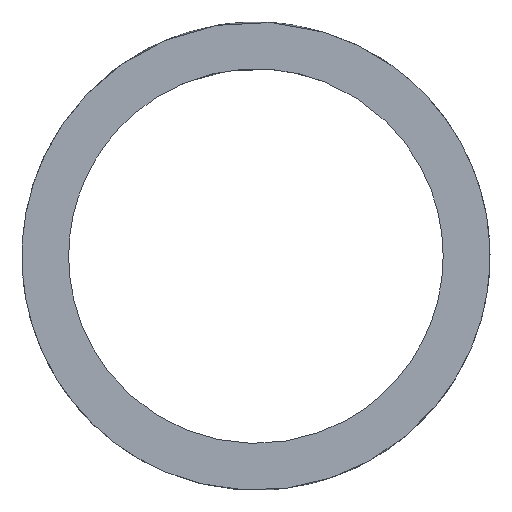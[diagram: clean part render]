
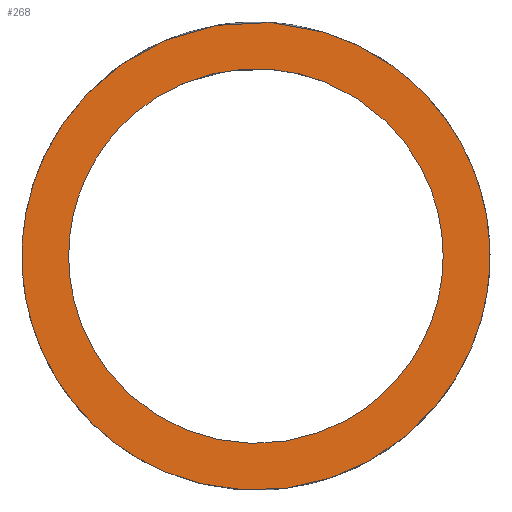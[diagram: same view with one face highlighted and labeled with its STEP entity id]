
A CAD part, left-side view. The second image highlights one B-rep face of the part: STEP entity #268.
In plain terms, the highlighted planar face has unit normal (-0.707, -0.707, 0).
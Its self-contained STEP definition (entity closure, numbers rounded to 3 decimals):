
#110=ORIENTED_EDGE('',*,*,#138,.T.);
#111=ORIENTED_EDGE('',*,*,#139,.T.);
#126=ELLIPSE('',#257,21.213,15.);
#127=ELLIPSE('',#258,16.971,12.);
#130=VERTEX_POINT('',#199);
#131=VERTEX_POINT('',#201);
#138=EDGE_CURVE('',#130,#130,#126,.T.);
#139=EDGE_CURVE('',#131,#131,#127,.T.);
#146=EDGE_LOOP('',(#110));
#147=EDGE_LOOP('',(#111));
#162=FACE_BOUND('',#146,.T.);
#163=FACE_BOUND('',#147,.T.);
#178=DIRECTION('',(-0.707,-0.707,0.));
#179=DIRECTION('',(-0.707,0.707,0.));
#180=DIRECTION('',(-0.707,-0.707,0.));
#181=DIRECTION('',(0.707,-0.707,0.));
#182=DIRECTION('',(0.707,0.707,0.));
#183=DIRECTION('',(-0.707,0.707,0.));
#198=CARTESIAN_POINT('',(-98.106,-4.393,15.));
#199=CARTESIAN_POINT('',(-98.106,-4.393,14.342));
#200=CARTESIAN_POINT('',(-102.5,0.,0.));
#201=CARTESIAN_POINT('',(-98.106,-4.393,11.167));
#202=CARTESIAN_POINT('',(-102.5,0.,0.));
#256=AXIS2_PLACEMENT_3D('',#198,#178,#179);
#257=AXIS2_PLACEMENT_3D('',#200,#180,#181);
#258=AXIS2_PLACEMENT_3D('',#202,#182,#183);
#266=PLANE('',#256);
#268=ADVANCED_FACE('',(#162,#163),#266,.T.);
